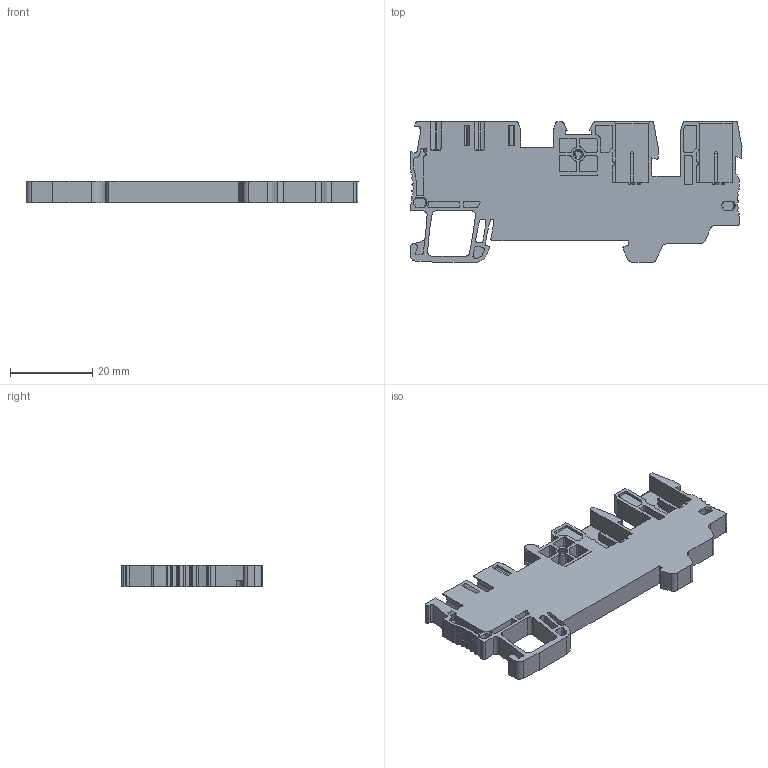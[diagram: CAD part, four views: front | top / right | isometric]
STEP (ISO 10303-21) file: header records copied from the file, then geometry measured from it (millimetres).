
FILE_DESCRIPTION(('Open CASCADE Model'),'2;1');
FILE_NAME('Open CASCADE Shape Model','2023-03-16T14:25:57',('Author'),( 'Open CASCADE'),'Open CASCADE STEP processor 6.5','Open CASCADE 6.5' ,'Unknown');
FILE_SCHEMA(('AUTOMOTIVE_DESIGN { 1 0 10303 214 1 1 1 1 }'));
Length unit declared in the file: millimetre
Products named in the file (1462): CADSOFTTOOLS 2; CADSOFTTOOLS 2.1; CADSOFTTOOLS 2.2; CADSOFTTOOLS 2.3; CADSOFTTOOLS 2.4; CADSOFTTOOLS 2.5; CADSOFTTOOLS 2.6; CADSOFTTOOLS 2.7; CADSOFTTOOLS 2.8; CADSOFTTOOLS 2.9; CADSOFTTOOLS 2.10; CADSOFTTOOLS 2.11; CADSOFTTOOLS 2.12; CADSOFTTOOLS 2.13; CADSOFTTOOLS 2.14; CADSOFTTOOLS 2.15; CADSOFTTOOLS 2.16; CADSOFTTOOLS 2.17; CADSOFTTOOLS 2.18; CADSOFTTOOLS 2.19; CADSOFTTOOLS 2.20; CADSOFTTOOLS 2.21; CADSOFTTOOLS 2.22; CADSOFTTOOLS 2.23; CADSOFTTOOLS 2.24; CADSOFTTOOLS 2.25; CADSOFTTOOLS 2.26; CADSOFTTOOLS 2.27; CADSOFTTOOLS 2.28; CADSOFTTOOLS 2.29; CADSOFTTOOLS 2.30; CADSOFTTOOLS 2.31; CADSOFTTOOLS 2.32; CADSOFTTOOLS 2.33; CADSOFTTOOLS 2.34; CADSOFTTOOLS 2.35; CADSOFTTOOLS 2.36; CADSOFTTOOLS 2.37; CADSOFTTOOLS 2.38; CADSOFTTOOLS 2.39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
Assembly tree (1461 placements, depth 2):
  CADSOFTTOOLS 2
    CADSOFTTOOLS 2.1
    CADSOFTTOOLS 2.2
    CADSOFTTOOLS 2.3
    CADSOFTTOOLS 2.4
    CADSOFTTOOLS 2.5
    CADSOFTTOOLS 2.6
    CADSOFTTOOLS 2.7
    CADSOFTTOOLS 2.8
    CADSOFTTOOLS 2.9
    CADSOFTTOOLS 2.10
    CADSOFTTOOLS 2.11
    CADSOFTTOOLS 2.12
    CADSOFTTOOLS 2.13
    CADSOFTTOOLS 2.14
    CADSOFTTOOLS 2.15
    CADSOFTTOOLS 2.16
    CADSOFTTOOLS 2.17
    CADSOFTTOOLS 2.18
    CADSOFTTOOLS 2.19
    CADSOFTTOOLS 2.20
    CADSOFTTOOLS 2.21
    CADSOFTTOOLS 2.22
    CADSOFTTOOLS 2.23
    CADSOFTTOOLS 2.24
    CADSOFTTOOLS 2.25
    CADSOFTTOOLS 2.26
    CADSOFTTOOLS 2.27
    CADSOFTTOOLS 2.28
    CADSOFTTOOLS 2.29
    CADSOFTTOOLS 2.30
    CADSOFTTOOLS 2.31
    CADSOFTTOOLS 2.32
    CADSOFTTOOLS 2.33
    CADSOFTTOOLS 2.34
    CADSOFTTOOLS 2.35
    CADSOFTTOOLS 2.36
    CADSOFTTOOLS 2.37
    CADSOFTTOOLS 2.38
    CADSOFTTOOLS 2.39
    CADSOFTTOOLS 2.40
    CADSOFTTOOLS 2.41
    CADSOFTTOOLS 2.42
    CADSOFTTOOLS 2.43
    CADSOFTTOOLS 2.44
    CADSOFTTOOLS 2.45
    CADSOFTTOOLS 2.46
    CADSOFTTOOLS 2.47
    CADSOFTTOOLS 2.48
    CADSOFTTOOLS 2.49
    CADSOFTTOOLS 2.50
    CADSOFTTOOLS 2.51
    CADSOFTTOOLS 2.52
    CADSOFTTOOLS 2.53
    CADSOFTTOOLS 2.54
    CADSOFTTOOLS 2.55
    CADSOFTTOOLS 2.56
    CADSOFTTOOLS 2.57
    CADSOFTTOOLS 2.58
    CADSOFTTOOLS 2.59
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Bounding box: 80.8 x 34.2 x 5.2 mm (x, y, z)
Surface area: 8722.9 mm2 (no closed solid volume)
Topology: 0 solids, 1461 shells, 1461 faces, 8450 edges, 8450 vertices
Faces by surface type: plane 1158, cylinder 293, cone 10
Entity records: 176104 total; most frequent: CARTESIAN_POINT 39217, DIRECTION 22139, LINE 13583, VECTOR 13583, ORIENTED_EDGE 8450, EDGE_CURVE 8450, VERTEX_POINT 8450, SURFACE_CURVE 8450
